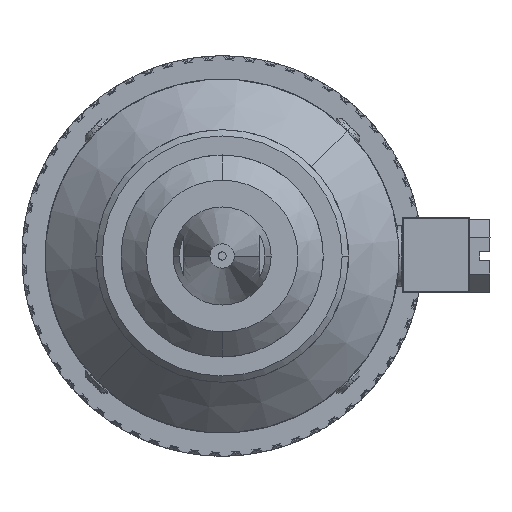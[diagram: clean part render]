
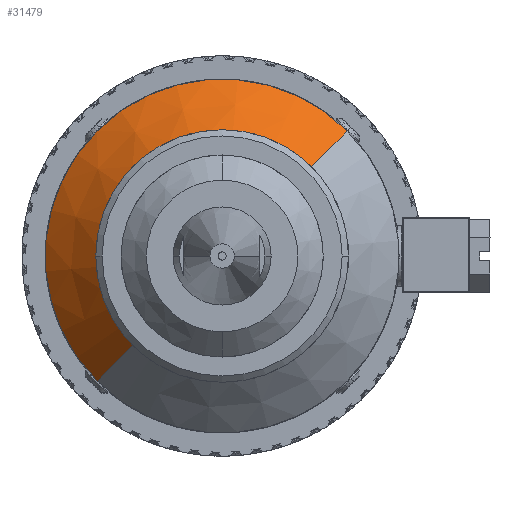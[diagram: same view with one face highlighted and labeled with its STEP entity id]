
A CAD part, front view. The second image highlights one B-rep face of the part: STEP entity #31479.
In plain terms, the highlighted conical face has half-angle 45 degrees and reference radius 15.875 mm.
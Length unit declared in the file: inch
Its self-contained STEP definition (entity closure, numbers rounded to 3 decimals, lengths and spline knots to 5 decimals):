
#248 = CARTESIAN_POINT ( 'NONE',  ( -0.66003, 0.01411, -0.44267 ) ) ;
#4563 = VECTOR ( 'NONE', #58019, 39.37008 ) ;
#6141 = DIRECTION ( 'NONE',  ( -0.5, 0.707, -0.5 ) ) ;
#7567 = DIRECTION ( 'NONE',  ( 0., 1., 0. ) ) ;
#7900 = DIRECTION ( 'NONE',  ( 0.707, 0., 0.707 ) ) ;
#11266 = CARTESIAN_POINT ( 'NONE',  ( 0.22385, 0.01411, 0.44121 ) ) ;
#11359 = ORIENTED_EDGE ( 'NONE', *, *, #12176, .T. ) ;
#12176 = EDGE_CURVE ( 'NONE', #48602, #46090, #55730, .T. ) ;
#17124 = CONICAL_SURFACE ( 'NONE', #66488, 0.625, 0.785 ) ;
#19140 = CARTESIAN_POINT ( 'NONE',  ( -0.83681, 0.26411, -0.61945 ) ) ;
#19190 = CARTESIAN_POINT ( 'NONE',  ( 0.22385, 0.01411, 0.44121 ) ) ;
#20156 = LINE ( 'NONE', #248, #39440 ) ;
#21558 = CARTESIAN_POINT ( 'NONE',  ( -0.66003, 0.01411, -0.44267 ) ) ;
#23448 = EDGE_LOOP ( 'NONE', ( #57711, #35445, #11359, #57868 ) ) ;
#24901 = CARTESIAN_POINT ( 'NONE',  ( -0.21809, 0.26411, -0.00073 ) ) ;
#25737 = EDGE_CURVE ( 'NONE', #32880, #58416, #32957, .T. ) ;
#27333 = AXIS2_PLACEMENT_3D ( 'NONE', #46150, #28942, #28688 ) ;
#28688 = DIRECTION ( 'NONE',  ( 0.707, 0., 0.707 ) ) ;
#28942 = DIRECTION ( 'NONE',  ( 0., -1., 0. ) ) ;
#31323 = DIRECTION ( 'NONE',  ( 0., -1., 0. ) ) ;
#31479 = ADVANCED_FACE ( 'NONE', ( #38151 ), #17124, .T. ) ;
#32880 = VERTEX_POINT ( 'NONE', #19190 ) ;
#32957 = CIRCLE ( 'NONE', #27333, 0.625 ) ;
#34037 = AXIS2_PLACEMENT_3D ( 'NONE', #24901, #31323, #7900 ) ;
#35445 = ORIENTED_EDGE ( 'NONE', *, *, #53369, .T. ) ;
#38151 = FACE_OUTER_BOUND ( 'NONE', #23448, .T. ) ;
#39440 = VECTOR ( 'NONE', #6141, 39.37008 ) ;
#43062 = CARTESIAN_POINT ( 'NONE',  ( -0.21809, 0.01411, -0.00073 ) ) ;
#44665 = EDGE_CURVE ( 'NONE', #58416, #46090, #20156, .T. ) ;
#46090 = VERTEX_POINT ( 'NONE', #19140 ) ;
#46150 = CARTESIAN_POINT ( 'NONE',  ( -0.21809, 0.01411, -0.00073 ) ) ;
#48602 = VERTEX_POINT ( 'NONE', #75933 ) ;
#53369 = EDGE_CURVE ( 'NONE', #32880, #48602, #65851, .T. ) ;
#54567 = DIRECTION ( 'NONE',  ( -0.707, 0., -0.707 ) ) ;
#55730 = CIRCLE ( 'NONE', #34037, 0.875 ) ;
#57711 = ORIENTED_EDGE ( 'NONE', *, *, #25737, .F. ) ;
#57868 = ORIENTED_EDGE ( 'NONE', *, *, #44665, .F. ) ;
#58019 = DIRECTION ( 'NONE',  ( 0.5, 0.707, 0.5 ) ) ;
#58416 = VERTEX_POINT ( 'NONE', #21558 ) ;
#65851 = LINE ( 'NONE', #11266, #4563 ) ;
#66488 = AXIS2_PLACEMENT_3D ( 'NONE', #43062, #7567, #54567 ) ;
#75933 = CARTESIAN_POINT ( 'NONE',  ( 0.40063, 0.26411, 0.61799 ) ) ;
